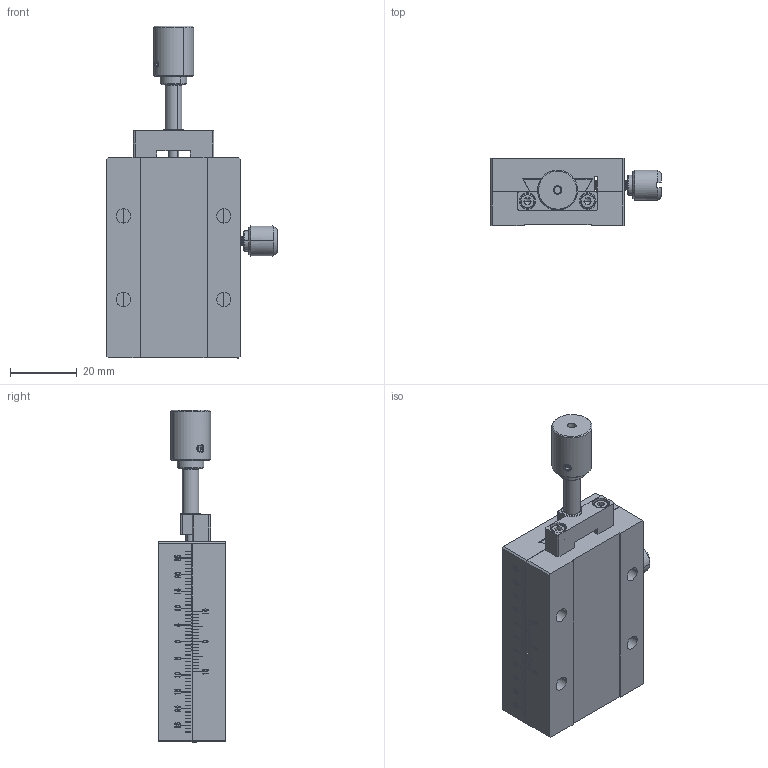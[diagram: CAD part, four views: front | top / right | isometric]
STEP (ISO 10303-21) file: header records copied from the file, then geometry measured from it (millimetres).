
FILE_DESCRIPTION (( 'STEP AP203' ), '1' );
FILE_NAME ('BLHS60.STEP', '2024-02-26T07:07:15', ( 'China' ), ( 'Microsoft' ), 'SwSTEP 2.0', 'SolidWorks 2024', '' );
FILE_SCHEMA (( 'CONFIG_CONTROL_DESIGN' ));
Length unit declared in the file: millimetre
Products named in the file (1): BLHS60
Bounding box: 51 x 20 x 99.3 mm (x, y, z)
Volume: 47082.5 mm3; surface area: 22811.5 mm2
Topology: 12 solids, 12 shells, 1249 faces, 3448 edges, 2254 vertices
Faces by surface type: plane 711, bspline 243, cylinder 230, cone 57, torus 8
Entity records: 62012 total; most frequent: CARTESIAN_POINT 33254, ORIENTED_EDGE 6852, DIRECTION 4426, EDGE_CURVE 3426, VERTEX_POINT 2254, VECTOR 1748, LINE 1748, EDGE_LOOP 1350
